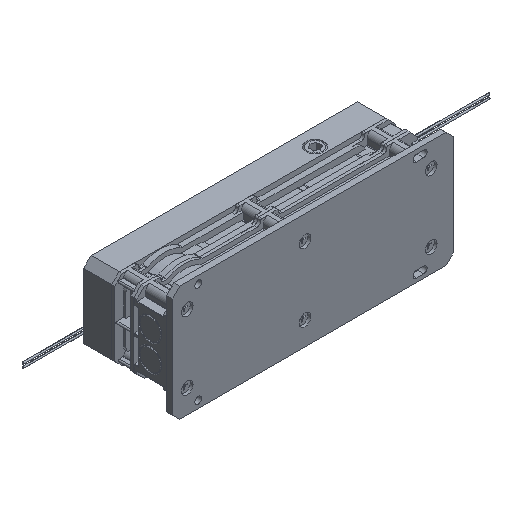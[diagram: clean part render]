
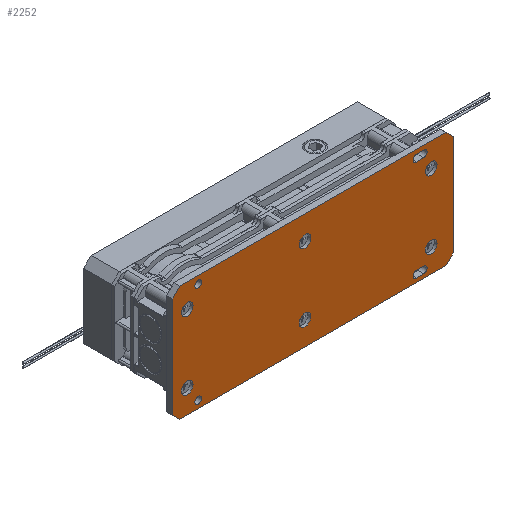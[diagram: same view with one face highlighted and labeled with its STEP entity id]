
A CAD part, isometric view. The second image highlights one B-rep face of the part: STEP entity #2252.
In plain terms, the highlighted planar face has unit normal (0, -1, 0).
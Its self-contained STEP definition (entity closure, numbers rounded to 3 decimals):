
#2252=ADVANCED_FACE('',(#4981,#4982,#4983,#4984,#4985,#4986,#4987,#4988,#4989,#4990,#4991),#4992,.F.);
#4981=FACE_OUTER_BOUND('',#8531,.T.);
#4982=FACE_BOUND('',#8532,.T.);
#4983=FACE_BOUND('',#8533,.T.);
#4984=FACE_BOUND('',#8534,.T.);
#4985=FACE_BOUND('',#8535,.T.);
#4986=FACE_BOUND('',#8536,.T.);
#4987=FACE_BOUND('',#8537,.T.);
#4988=FACE_BOUND('',#8538,.T.);
#4989=FACE_BOUND('',#8539,.T.);
#4990=FACE_BOUND('',#8540,.T.);
#4991=FACE_BOUND('',#8541,.T.);
#4992=PLANE('',#8542);
#8531=EDGE_LOOP('',(#18123,#18124,#18125,#18126,#18127,#18128,#18129,#18130));
#8532=EDGE_LOOP('',(#18131,#18132,#18133,#18134));
#8533=EDGE_LOOP('',(#18135,#18136,#18137,#18138));
#8534=EDGE_LOOP('',(#18139));
#8535=EDGE_LOOP('',(#18140));
#8536=EDGE_LOOP('',(#18141));
#8537=EDGE_LOOP('',(#18142));
#8538=EDGE_LOOP('',(#18143));
#8539=EDGE_LOOP('',(#18144));
#8540=EDGE_LOOP('',(#18145));
#8541=EDGE_LOOP('',(#18146));
#8542=AXIS2_PLACEMENT_3D('',#18147,#18148,#18149);
#18123=ORIENTED_EDGE('',*,*,#26931,.F.);
#18124=ORIENTED_EDGE('',*,*,#27107,.F.);
#18125=ORIENTED_EDGE('',*,*,#27125,.F.);
#18126=ORIENTED_EDGE('',*,*,#27024,.F.);
#18127=ORIENTED_EDGE('',*,*,#27092,.F.);
#18128=ORIENTED_EDGE('',*,*,#27075,.F.);
#18129=ORIENTED_EDGE('',*,*,#27194,.F.);
#18130=ORIENTED_EDGE('',*,*,#27177,.F.);
#18131=ORIENTED_EDGE('',*,*,#27191,.T.);
#18132=ORIENTED_EDGE('',*,*,#27112,.T.);
#18133=ORIENTED_EDGE('',*,*,#26905,.T.);
#18134=ORIENTED_EDGE('',*,*,#27193,.T.);
#18135=ORIENTED_EDGE('',*,*,#27010,.T.);
#18136=ORIENTED_EDGE('',*,*,#27100,.T.);
#18137=ORIENTED_EDGE('',*,*,#27080,.T.);
#18138=ORIENTED_EDGE('',*,*,#27209,.T.);
#18139=ORIENTED_EDGE('',*,*,#26929,.T.);
#18140=ORIENTED_EDGE('',*,*,#27204,.T.);
#18141=ORIENTED_EDGE('',*,*,#27015,.F.);
#18142=ORIENTED_EDGE('',*,*,#27208,.F.);
#18143=ORIENTED_EDGE('',*,*,#27206,.F.);
#18144=ORIENTED_EDGE('',*,*,#27185,.F.);
#18145=ORIENTED_EDGE('',*,*,#27152,.F.);
#18146=ORIENTED_EDGE('',*,*,#27126,.F.);
#18147=CARTESIAN_POINT('',(0.,0.0,0.0));
#18148=DIRECTION('',(-0.0,1.0,0.0));
#18149=DIRECTION('',(1.0,0.0,0.0));
#26905=EDGE_CURVE('',#33150,#33151,#33152,.T.);
#26929=EDGE_CURVE('',#33198,#33198,#33199,.T.);
#26931=EDGE_CURVE('',#33202,#33203,#33204,.T.);
#27010=EDGE_CURVE('',#33348,#33349,#33350,.T.);
#27015=EDGE_CURVE('',#33358,#33358,#33359,.T.);
#27024=EDGE_CURVE('',#33376,#33377,#33378,.T.);
#27075=EDGE_CURVE('',#33462,#33463,#33464,.T.);
#27080=EDGE_CURVE('',#33470,#33471,#33472,.T.);
#27092=EDGE_CURVE('',#33463,#33376,#33489,.T.);
#27100=EDGE_CURVE('',#33349,#33470,#33501,.T.);
#27107=EDGE_CURVE('',#33511,#33202,#33512,.T.);
#27112=EDGE_CURVE('',#33518,#33150,#33519,.T.);
#27125=EDGE_CURVE('',#33377,#33511,#33539,.T.);
#27126=EDGE_CURVE('',#33540,#33540,#33541,.T.);
#27152=EDGE_CURVE('',#33576,#33576,#33577,.T.);
#27177=EDGE_CURVE('',#33203,#33610,#33611,.T.);
#27185=EDGE_CURVE('',#33620,#33620,#33621,.T.);
#27191=EDGE_CURVE('',#33628,#33518,#33629,.T.);
#27193=EDGE_CURVE('',#33151,#33628,#33631,.T.);
#27194=EDGE_CURVE('',#33610,#33462,#33632,.T.);
#27204=EDGE_CURVE('',#33644,#33644,#33645,.T.);
#27206=EDGE_CURVE('',#33648,#33648,#33649,.T.);
#27208=EDGE_CURVE('',#33651,#33651,#33652,.T.);
#27209=EDGE_CURVE('',#33471,#33348,#33653,.T.);
#33150=VERTEX_POINT('',#42531);
#33151=VERTEX_POINT('',#42532);
#33152=LINE('',#42533,#42534);
#33198=VERTEX_POINT('',#42599);
#33199=CIRCLE('',#42600,2.25);
#33202=VERTEX_POINT('',#42603);
#33203=VERTEX_POINT('',#42604);
#33204=LINE('',#42605,#42606);
#33348=VERTEX_POINT('',#42816);
#33349=VERTEX_POINT('',#42817);
#33350=LINE('',#42818,#42819);
#33358=VERTEX_POINT('',#42830);
#33359=CIRCLE('',#42831,4.0);
#33376=VERTEX_POINT('',#42854);
#33377=VERTEX_POINT('',#42855);
#33378=LINE('',#42856,#42857);
#33462=VERTEX_POINT('',#42977);
#33463=VERTEX_POINT('',#42978);
#33464=LINE('',#42979,#42980);
#33470=VERTEX_POINT('',#42990);
#33471=VERTEX_POINT('',#42991);
#33472=LINE('',#42992,#42993);
#33489=LINE('',#43020,#43021);
#33501=CIRCLE('',#43040,2.25);
#33511=VERTEX_POINT('',#43056);
#33512=LINE('',#43057,#43058);
#33518=VERTEX_POINT('',#43068);
#33519=CIRCLE('',#43069,2.25);
#33539=LINE('',#43099,#43100);
#33540=VERTEX_POINT('',#43101);
#33541=CIRCLE('',#43102,4.0);
#33576=VERTEX_POINT('',#43159);
#33577=CIRCLE('',#43160,4.0);
#33610=VERTEX_POINT('',#43212);
#33611=LINE('',#43213,#43214);
#33620=VERTEX_POINT('',#43230);
#33621=CIRCLE('',#43231,4.0);
#33628=VERTEX_POINT('',#43243);
#33629=LINE('',#43244,#43245);
#33631=CIRCLE('',#43248,2.25);
#33632=LINE('',#43249,#43250);
#33644=VERTEX_POINT('',#43270);
#33645=CIRCLE('',#43271,2.25);
#33648=VERTEX_POINT('',#43274);
#33649=CIRCLE('',#43275,4.0);
#33651=VERTEX_POINT('',#43278);
#33652=CIRCLE('',#43279,4.0);
#33653=CIRCLE('',#43280,2.25);
#42531=CARTESIAN_POINT('',(132.8,0.0,-31.75));
#42532=CARTESIAN_POINT('',(137.8,0.0,-31.75));
#42533=CARTESIAN_POINT('',(132.8,0.0,-31.75));
#42534=VECTOR('',#52670,1.0);
#42599=CARTESIAN_POINT('',(-12.45,0.0,-34.0));
#42600=AXIS2_PLACEMENT_3D('',#52702,#52703,#52704);
#42603=CARTESIAN_POINT('',(-27.2,0.0,-39.0));
#42604=CARTESIAN_POINT('',(-32.2,0.0,-34.0));
#42605=CARTESIAN_POINT('',(-27.2,0.0,-39.0));
#42606=VECTOR('',#52708,1.0);
#42816=CARTESIAN_POINT('',(137.8,0.0,31.75));
#42817=CARTESIAN_POINT('',(132.8,0.0,31.75));
#42818=CARTESIAN_POINT('',(137.8,0.0,31.75));
#42819=VECTOR('',#52811,1.0);
#42830=CARTESIAN_POINT('',(-22.2,0.0,19.0));
#42831=AXIS2_PLACEMENT_3D('',#52818,#52819,#52820);
#42854=CARTESIAN_POINT('',(157.8,0.0,34.0));
#42855=CARTESIAN_POINT('',(157.8,0.0,-34.0));
#42856=CARTESIAN_POINT('',(157.8,0.0,34.0));
#42857=VECTOR('',#52833,1.0);
#42977=CARTESIAN_POINT('',(-27.2,0.0,39.0));
#42978=CARTESIAN_POINT('',(152.8,0.0,39.0));
#42979=CARTESIAN_POINT('',(-27.2,0.0,39.0));
#42980=VECTOR('',#52912,1.0);
#42990=CARTESIAN_POINT('',(132.8,0.0,36.25));
#42991=CARTESIAN_POINT('',(137.8,0.0,36.25));
#42992=CARTESIAN_POINT('',(132.8,0.0,36.25));
#42993=VECTOR('',#52917,1.0);
#43020=CARTESIAN_POINT('',(152.8,0.0,39.0));
#43021=VECTOR('',#52931,1.0);
#43040=AXIS2_PLACEMENT_3D('',#52939,#52940,#52941);
#43056=CARTESIAN_POINT('',(152.8,0.0,-39.0));
#43057=CARTESIAN_POINT('',(152.8,0.0,-39.0));
#43058=VECTOR('',#52948,1.0);
#43068=CARTESIAN_POINT('',(132.8,0.0,-36.25));
#43069=AXIS2_PLACEMENT_3D('',#52953,#52954,#52955);
#43099=CARTESIAN_POINT('',(157.8,0.0,-34.0));
#43100=VECTOR('',#52972,1.0);
#43101=CARTESIAN_POINT('',(142.8,0.0,-27.0));
#43102=AXIS2_PLACEMENT_3D('',#52973,#52974,#52975);
#43159=CARTESIAN_POINT('',(142.8,0.0,19.0));
#43160=AXIS2_PLACEMENT_3D('',#53007,#53008,#53009);
#43212=CARTESIAN_POINT('',(-32.2,0.0,34.0));
#43213=CARTESIAN_POINT('',(-32.2,0.0,-34.0));
#43214=VECTOR('',#53044,1.0);
#43230=CARTESIAN_POINT('',(57.5,0.0,-27.0));
#43231=AXIS2_PLACEMENT_3D('',#53052,#53053,#53054);
#43243=CARTESIAN_POINT('',(137.8,0.0,-36.25));
#43244=CARTESIAN_POINT('',(137.8,0.0,-36.25));
#43245=VECTOR('',#53060,1.0);
#43248=AXIS2_PLACEMENT_3D('',#53062,#53063,#53064);
#43249=CARTESIAN_POINT('',(-32.2,0.0,34.0));
#43250=VECTOR('',#53065,1.0);
#43270=CARTESIAN_POINT('',(-12.45,0.0,34.0));
#43271=AXIS2_PLACEMENT_3D('',#53077,#53078,#53079);
#43274=CARTESIAN_POINT('',(-22.2,0.0,-27.0));
#43275=AXIS2_PLACEMENT_3D('',#53083,#53084,#53085);
#43278=CARTESIAN_POINT('',(57.5,0.0,19.0));
#43279=AXIS2_PLACEMENT_3D('',#53087,#53088,#53089);
#43280=AXIS2_PLACEMENT_3D('',#53090,#53091,#53092);
#52670=DIRECTION('',(1.0,0.0,0.0));
#52702=CARTESIAN_POINT('',(-14.7,0.0,-34.0));
#52703=DIRECTION('',(-0.0,1.0,0.0));
#52704=DIRECTION('',(1.0,0.0,0.0));
#52708=DIRECTION('',(-0.707,0.0,0.707));
#52811=DIRECTION('',(-1.0,0.0,0.0));
#52818=CARTESIAN_POINT('',(-22.2,0.0,23.0));
#52819=DIRECTION('',(0.0,-1.0,0.0));
#52820=DIRECTION('',(0.0,0.0,-1.0));
#52833=DIRECTION('',(0.0,0.0,-1.0));
#52912=DIRECTION('',(1.0,0.0,0.0));
#52917=DIRECTION('',(1.0,0.0,0.0));
#52931=DIRECTION('',(0.707,0.0,-0.707));
#52939=CARTESIAN_POINT('',(132.8,0.0,34.0));
#52940=DIRECTION('',(-0.0,1.0,0.0));
#52941=DIRECTION('',(1.0,0.0,0.0));
#52948=DIRECTION('',(-1.0,0.0,0.0));
#52953=CARTESIAN_POINT('',(132.8,0.0,-34.0));
#52954=DIRECTION('',(-0.0,1.0,0.0));
#52955=DIRECTION('',(1.0,0.0,0.0));
#52972=DIRECTION('',(-0.707,0.0,-0.707));
#52973=CARTESIAN_POINT('',(142.8,0.0,-23.0));
#52974=DIRECTION('',(0.0,-1.0,0.0));
#52975=DIRECTION('',(0.0,0.0,-1.0));
#53007=CARTESIAN_POINT('',(142.8,0.0,23.0));
#53008=DIRECTION('',(0.0,-1.0,0.0));
#53009=DIRECTION('',(0.0,0.0,-1.0));
#53044=DIRECTION('',(0.0,0.0,1.0));
#53052=CARTESIAN_POINT('',(57.5,0.0,-23.0));
#53053=DIRECTION('',(0.0,-1.0,0.0));
#53054=DIRECTION('',(0.0,0.0,-1.0));
#53060=DIRECTION('',(-1.0,0.0,0.0));
#53062=CARTESIAN_POINT('',(137.8,0.0,-34.0));
#53063=DIRECTION('',(-0.0,1.0,0.0));
#53064=DIRECTION('',(1.0,0.0,0.0));
#53065=DIRECTION('',(0.707,0.0,0.707));
#53077=CARTESIAN_POINT('',(-14.7,0.0,34.0));
#53078=DIRECTION('',(-0.0,1.0,0.0));
#53079=DIRECTION('',(1.0,0.0,0.0));
#53083=CARTESIAN_POINT('',(-22.2,0.0,-23.0));
#53084=DIRECTION('',(0.0,-1.0,0.0));
#53085=DIRECTION('',(0.0,0.0,-1.0));
#53087=CARTESIAN_POINT('',(57.5,0.0,23.0));
#53088=DIRECTION('',(0.0,-1.0,0.0));
#53089=DIRECTION('',(0.0,0.0,-1.0));
#53090=CARTESIAN_POINT('',(137.8,0.0,34.0));
#53091=DIRECTION('',(-0.0,1.0,0.0));
#53092=DIRECTION('',(1.0,0.0,0.0));
